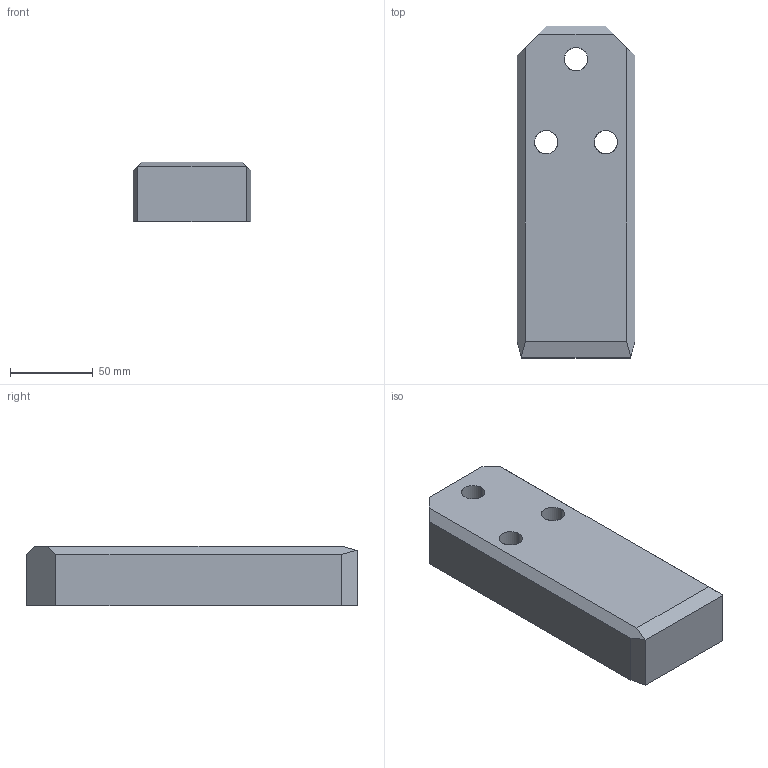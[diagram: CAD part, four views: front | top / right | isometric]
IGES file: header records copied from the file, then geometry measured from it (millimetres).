
Start section: START RECORD GO HERE.
Global section: file name: A927-71X200X36.igs; native system: DASSAULT SYSTEMES CATIA V5 R20 - www.3ds.com; preprocessor: CATIA Version 5 Release 20 ; author: Utente; organization: NB04-ASUS; date: 20200408.202646; units: millimetre
Bounding box: 71 x 200 x 36 mm (x, y, z)
Surface area: 49439.5 mm2 (no closed solid volume)
Topology: 0 solids, 0 shells, 35 faces, 168 edges, 168 vertices
Faces by surface type: revolution 18, extrusion 17
